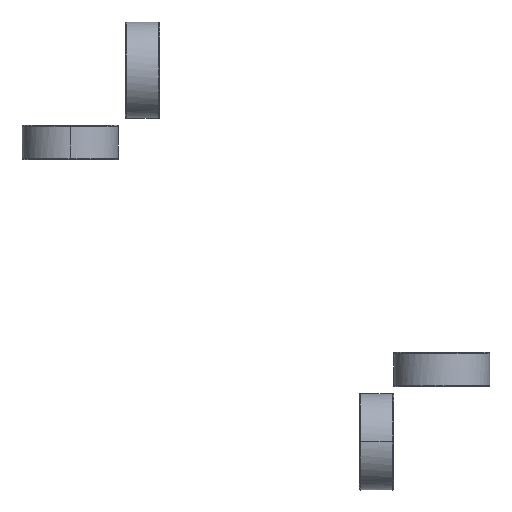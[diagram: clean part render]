
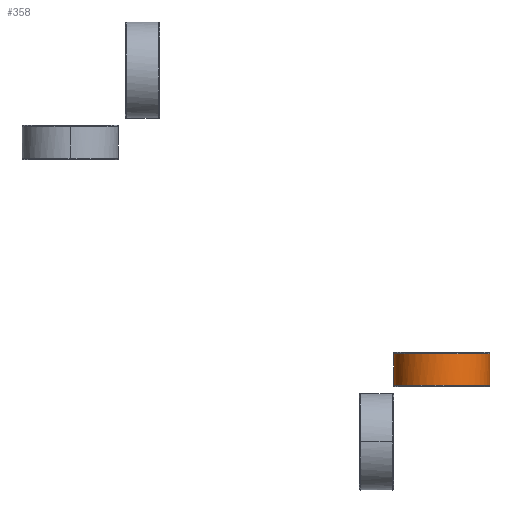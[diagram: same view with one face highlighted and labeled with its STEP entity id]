
A CAD part, left-side view. The second image highlights one B-rep face of the part: STEP entity #358.
In plain terms, the highlighted free-form (B-spline) face has degree [2, 1] with [9, 2] control points.
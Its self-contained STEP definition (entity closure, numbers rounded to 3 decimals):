
#358=ADVANCED_FACE('',(#384),#1165,.T.);
#384=FACE_OUTER_BOUND('',#415,.T.);
#415=EDGE_LOOP('',(#500,#501,#502,#503));
#500=ORIENTED_EDGE('',*,*,#967,.T.);
#501=ORIENTED_EDGE('',*,*,#968,.T.);
#502=ORIENTED_EDGE('',*,*,#969,.T.);
#503=ORIENTED_EDGE('',*,*,#970,.T.);
#591=PCURVE('',#1165,#682);
#592=PCURVE('',#1165,#683);
#593=PCURVE('',#1165,#684);
#594=PCURVE('',#1165,#685);
#682=DEFINITIONAL_REPRESENTATION('',(#785),#2893);
#683=DEFINITIONAL_REPRESENTATION('',(#787),#2893);
#684=DEFINITIONAL_REPRESENTATION('',(#788),#2893);
#685=DEFINITIONAL_REPRESENTATION('',(#790),#2893);
#785=B_SPLINE_CURVE_WITH_KNOTS('',1,(#2721,#2722),.UNSPECIFIED.,.F.,.F.,
(2,2),(-8.283,-5.142),.UNSPECIFIED.);
#786=B_SPLINE_CURVE_WITH_KNOTS('',1,(#2723,#2724),.UNSPECIFIED.,.F.,.F.,
(2,2),(-5.142,-4.142),.UNSPECIFIED.);
#787=B_SPLINE_CURVE_WITH_KNOTS('',1,(#2725,#2726),.UNSPECIFIED.,.F.,.F.,
(2,2),(-5.142,-4.142),.UNSPECIFIED.);
#788=B_SPLINE_CURVE_WITH_KNOTS('',1,(#2732,#2733),.UNSPECIFIED.,.F.,.F.,
(2,2),(-4.142,-1.),.UNSPECIFIED.);
#789=B_SPLINE_CURVE_WITH_KNOTS('',1,(#2734,#2735),.UNSPECIFIED.,.F.,.F.,
(2,2),(-1.,0.),.UNSPECIFIED.);
#790=B_SPLINE_CURVE_WITH_KNOTS('',1,(#2736,#2737),.UNSPECIFIED.,.F.,.F.,
(2,2),(-1.,0.),.UNSPECIFIED.);
#876=SURFACE_CURVE('',#1046,(#591),.PCURVE_S1.);
#877=SURFACE_CURVE('',#786,(#592),.PCURVE_S1.);
#878=SURFACE_CURVE('',#1047,(#593),.PCURVE_S1.);
#879=SURFACE_CURVE('',#789,(#594),.PCURVE_S1.);
#967=EDGE_CURVE('',#1137,#1140,#876,.T.);
#968=EDGE_CURVE('',#1140,#1139,#877,.T.);
#969=EDGE_CURVE('',#1139,#1138,#878,.T.);
#970=EDGE_CURVE('',#1138,#1137,#879,.T.);
#1046=(
BOUNDED_CURVE()
B_SPLINE_CURVE(2,(#2716,#2717,#2718,#2719,#2720),.UNSPECIFIED.,.F.,.F.)
B_SPLINE_CURVE_WITH_KNOTS((3,2,3),(-8.283,-6.712,-5.142),
 .UNSPECIFIED.)
CURVE()
GEOMETRIC_REPRESENTATION_ITEM()
RATIONAL_B_SPLINE_CURVE((1.,0.707,1.,0.707,1.))
REPRESENTATION_ITEM('')
);
#1047=(
BOUNDED_CURVE()
B_SPLINE_CURVE(2,(#2727,#2728,#2729,#2730,#2731),.UNSPECIFIED.,.F.,.F.)
B_SPLINE_CURVE_WITH_KNOTS((3,2,3),(-4.142,-2.571,-1.),
 .UNSPECIFIED.)
CURVE()
GEOMETRIC_REPRESENTATION_ITEM()
RATIONAL_B_SPLINE_CURVE((1.,0.707,1.,0.707,1.))
REPRESENTATION_ITEM('')
);
#1137=VERTEX_POINT('',#2712);
#1138=VERTEX_POINT('',#2713);
#1139=VERTEX_POINT('',#2714);
#1140=VERTEX_POINT('',#2715);
#1165=(
BOUNDED_SURFACE()
B_SPLINE_SURFACE(2,1,((#2694,#2695),(#2696,#2697),(#2698,#2699),(#2700,#2701),
(#2702,#2703),(#2704,#2705),(#2706,#2707),(#2708,#2709),(#2710,#2711)),
 .UNSPECIFIED.,.T.,.F.,.F.)
B_SPLINE_SURFACE_WITH_KNOTS((3,2,2,2,3),(2,2),(0.,1.571,3.142,
4.712,6.283),(0.,1.),.UNSPECIFIED.)
GEOMETRIC_REPRESENTATION_ITEM()
RATIONAL_B_SPLINE_SURFACE(((1.,1.),(0.707,0.707),
(1.,1.),(0.707,0.707),(1.,1.),(0.707,
0.707),(1.,1.),(0.707,0.707),(1.,1.)))
REPRESENTATION_ITEM('')
SURFACE()
);
#2694=CARTESIAN_POINT('',(4.8,7.,0.));
#2695=CARTESIAN_POINT('',(0.2,7.,0.));
#2696=CARTESIAN_POINT('',(4.8,7.,-7.));
#2697=CARTESIAN_POINT('',(0.2,7.,-7.));
#2698=CARTESIAN_POINT('',(4.8,0.,-7.));
#2699=CARTESIAN_POINT('',(0.2,0.,-7.));
#2700=CARTESIAN_POINT('',(4.8,-7.,-7.));
#2701=CARTESIAN_POINT('',(0.2,-7.,-7.));
#2702=CARTESIAN_POINT('',(4.8,-7.,0.));
#2703=CARTESIAN_POINT('',(0.2,-7.,0.));
#2704=CARTESIAN_POINT('',(4.8,-7.,7.));
#2705=CARTESIAN_POINT('',(0.2,-7.,7.));
#2706=CARTESIAN_POINT('',(4.8,0.,7.));
#2707=CARTESIAN_POINT('',(0.2,0.,7.));
#2708=CARTESIAN_POINT('',(4.8,7.,7.));
#2709=CARTESIAN_POINT('',(0.2,7.,7.));
#2710=CARTESIAN_POINT('',(4.8,7.,0.));
#2711=CARTESIAN_POINT('',(0.2,7.,0.));
#2712=CARTESIAN_POINT('',(0.2,7.,0.));
#2713=CARTESIAN_POINT('',(4.8,7.,0.));
#2714=CARTESIAN_POINT('',(4.8,-7.,0.));
#2715=CARTESIAN_POINT('',(0.2,-7.,0.));
#2716=CARTESIAN_POINT('',(0.2,7.,0.));
#2717=CARTESIAN_POINT('',(0.2,7.,7.));
#2718=CARTESIAN_POINT('',(0.2,0.,7.));
#2719=CARTESIAN_POINT('',(0.2,-7.,7.));
#2720=CARTESIAN_POINT('',(0.2,-7.,0.));
#2721=CARTESIAN_POINT('',(6.283,1.));
#2722=CARTESIAN_POINT('',(3.142,1.));
#2723=CARTESIAN_POINT('',(0.2,-7.,0.));
#2724=CARTESIAN_POINT('',(4.8,-7.,0.));
#2725=CARTESIAN_POINT('',(3.142,1.));
#2726=CARTESIAN_POINT('',(3.142,0.));
#2727=CARTESIAN_POINT('',(4.8,-7.,0.));
#2728=CARTESIAN_POINT('',(4.8,-7.,7.));
#2729=CARTESIAN_POINT('',(4.8,0.,7.));
#2730=CARTESIAN_POINT('',(4.8,7.,7.));
#2731=CARTESIAN_POINT('',(4.8,7.,0.));
#2732=CARTESIAN_POINT('',(3.142,0.));
#2733=CARTESIAN_POINT('',(6.283,0.));
#2734=CARTESIAN_POINT('',(4.8,7.,0.));
#2735=CARTESIAN_POINT('',(0.2,7.,0.));
#2736=CARTESIAN_POINT('',(6.283,0.));
#2737=CARTESIAN_POINT('',(6.283,1.));
#2893=(
GEOMETRIC_REPRESENTATION_CONTEXT(2)
PARAMETRIC_REPRESENTATION_CONTEXT()
REPRESENTATION_CONTEXT('pspace','')
);
